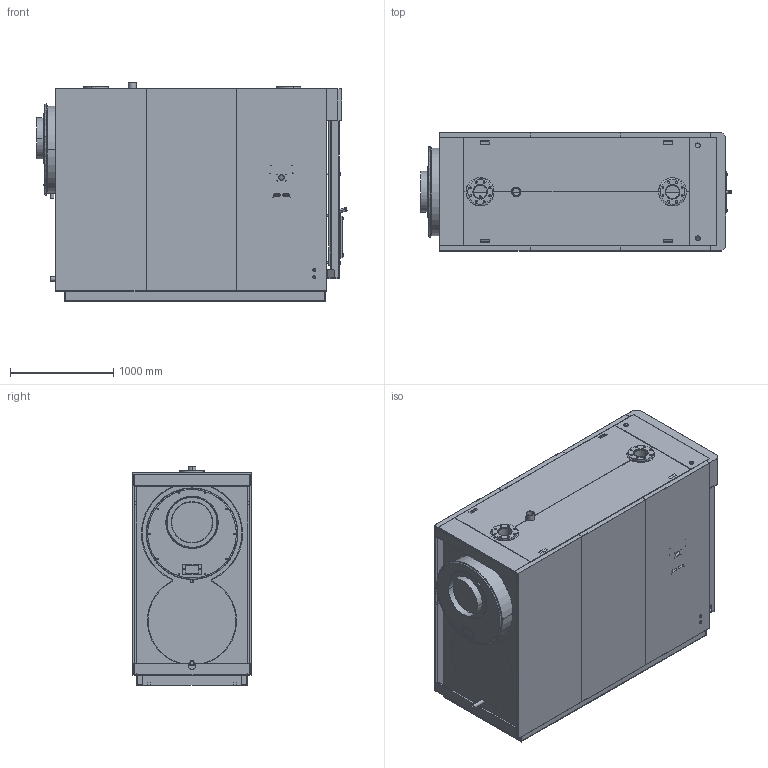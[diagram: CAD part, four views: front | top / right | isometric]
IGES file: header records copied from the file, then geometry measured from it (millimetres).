
Start section: START RECORD GO HERE.
Global section: file name: RTS_1355-1500 2S.igs; native system: DASSAULT SYSTEMES CATIA V5 R20 - www.3ds.com; preprocessor: CATIA Version 5 Release 20 SP 6 ; author: Riello S.p.A.; organization: RIELLO-IT; date: 20131031.113001; units: millimetre
Bounding box: 3007.89 x 1147 x 2120 mm (x, y, z)
Surface area: 83362310.8 mm2 (no closed solid volume)
Topology: 0 solids, 0 shells, 4178 faces, 20016 edges, 19981 vertices
Faces by surface type: plane 2303, revolution 1819, bspline 56
